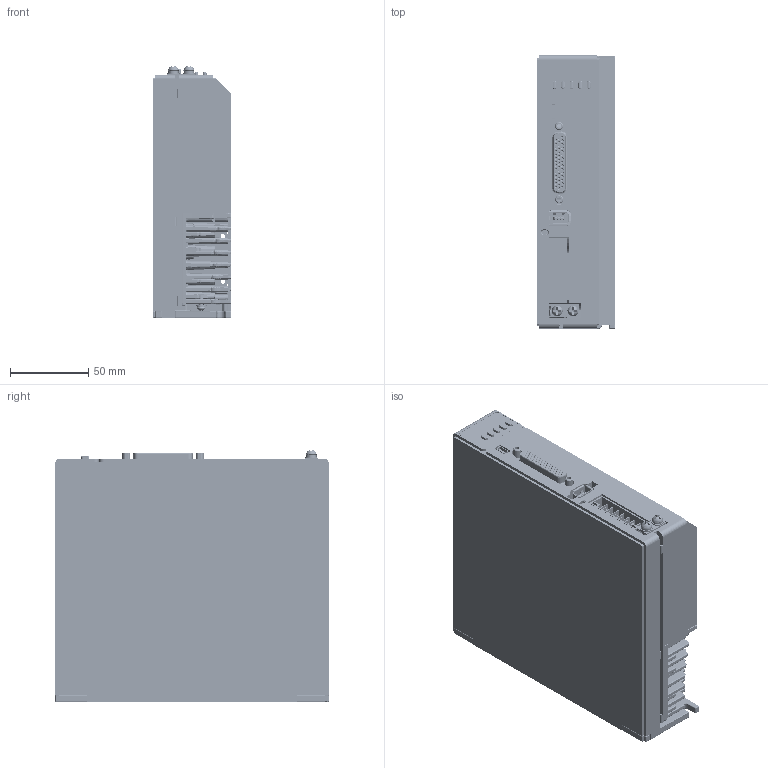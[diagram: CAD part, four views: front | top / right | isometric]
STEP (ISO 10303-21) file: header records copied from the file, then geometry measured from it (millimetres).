
FILE_DESCRIPTION((''),'2;1');
FILE_NAME('ASM0001_L7_750_ASM','2019-08-15T',('sunjun'),(''),'PRO/ENGINEER BY PARAMETRIC TECHNOLOGY CORPORATION, 2008090','PRO/ENGINEER BY PARAMETRIC TECHNOLOGY CORPORATION, 2008090','');
FILE_SCHEMA(('CONFIG_CONTROL_DESIGN'));
Length unit declared in the file: millimetre
Products named in the file (35): L7_750_SKEL; PCB_L7_750; PCB_SMALL_L7; 5PIN_MINIUSB_SOCKET_1; C-2-5748482-5-A-3D_1; C-5788516-1-A-3D_Z; GAT33006_8P; JDDZ; C-1932389-1-3-3D; AJ_190117; PCB_L7_750_1_ASM; DB_L7_750_1; FF_L7_750; FF_L7_750_1; FAN_35; ZJ_L7FAN; PRT0001; ASM0001_FAN_ASM; FF_L7_400; FF_L7_EC750; DB_L7_400; SCDZ_750; M4X10_GB818_1; D4_GB9074_26_1; D4_GB9074_24_1; M4X10_GB9074_4_ASM; DB_L7_750_2; M3X8_GB818_9; D3_GB9074_26_11; D3_GB9074_24_14; M3X8_GB9074_4_ASM; YKL; _L7-750-07_04; FF_L7_750_222; ASM0001_L7_750_ASM
Assembly tree (36 placements, depth 3):
  ASM0001_L7_750_ASM
    L7_750_SKEL
    PCB_L7_750_1_ASM
      PCB_L7_750
      PCB_SMALL_L7
      5PIN_MINIUSB_SOCKET_1
      C-2-5748482-5-A-3D_1
      C-5788516-1-A-3D_Z
      GAT33006_8P
      JDDZ
      C-1932389-1-3-3D
      AJ_190117
    DB_L7_750_1
    FF_L7_750
    FF_L7_750_1
    ASM0001_FAN_ASM
      FAN_35
      ZJ_L7FAN
      PRT0001
    FF_L7_400
    FF_L7_EC750
    DB_L7_400
    SCDZ_750
    M4X10_GB9074_4_ASM  x2
      M4X10_GB818_1
      D4_GB9074_26_1
      D4_GB9074_24_1
    DB_L7_750_2
    M3X8_GB9074_4_ASM  x2
      M3X8_GB818_9
      D3_GB9074_26_11
      D3_GB9074_24_14
    YKL
    _L7-750-07_04
    FF_L7_750_222
Bounding box: 50 x 175.2 x 161.49 mm (x, y, z)
Volume: 1424534.1 mm3; surface area: 1188790.2 mm2
Topology: 35 solids, 35 shells, 18059 faces, 47732 edges, 29222 vertices
Faces by surface type: plane 8622, cylinder 4685, bspline 2325, sphere 1160, torus 771, cone 460, extrusion 36
Entity records: 637906 total; most frequent: CARTESIAN_POINT 207506, ORIENTED_EDGE 94532, DIRECTION 82931, EDGE_CURVE 47266, VECTOR 30533, LINE 30497, VERTEX_POINT 29076, AXIS2_PLACEMENT_3D 26199
